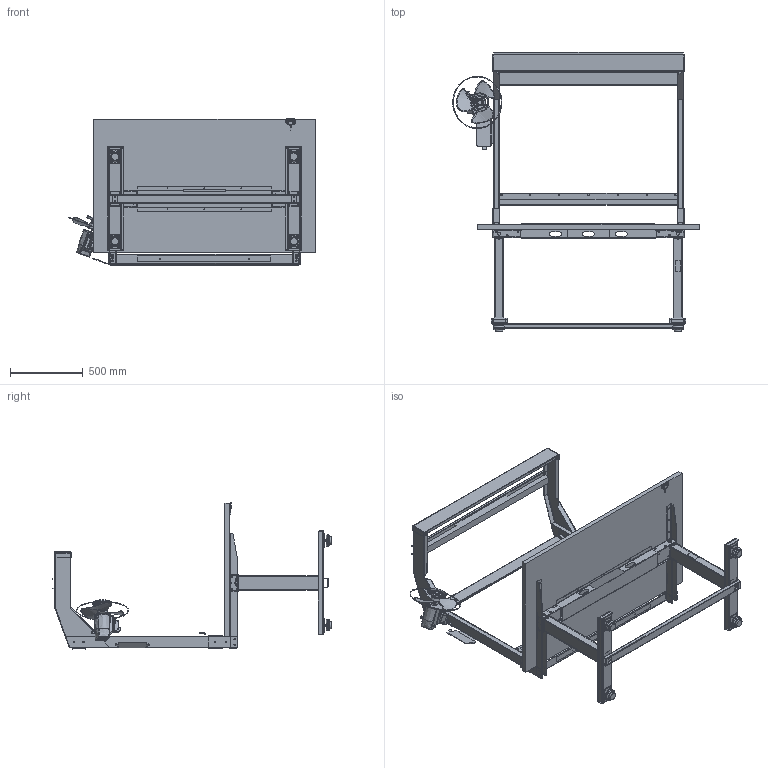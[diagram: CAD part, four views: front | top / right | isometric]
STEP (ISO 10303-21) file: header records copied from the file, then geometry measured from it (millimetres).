
FILE_DESCRIPTION (( 'STEP AP214' ), '1' );
FILE_NAME ('60INX36IN.STEP', '2018-10-08T12:30:38', ( '' ), ( '' ), 'SwSTEP 2.0', 'SolidWorks 2018', '' );
FILE_SCHEMA (( 'AUTOMOTIVE_DESIGN' ));
Length unit declared in the file: millimetre
Products named in the file (2): 60INX36IN
Bounding box: 1695.32 x 1924.07 x 1017.21 mm (x, y, z)
Surface area: 10889080.6 mm2 (no closed solid volume)
Topology: 0 solids, 104 shells, 5424 faces, 15494 edges, 10155 vertices
Faces by surface type: plane 3332, cylinder 1569, bspline 447, cone 76
Full cylindrical faces by diameter (mm): 3.6 x4, 4 x3, 4.2 x6, 4.6 x1, 5 x78, 5.8 x2, 6 x6, 6.35 x4, 6.4 x6, 6.647 x4, 6.8 x41, 7 x30, 7.937 x2, 7.938 x2, 8 x9, 8.5 x4, 9.347 x8, 9.525 x8, 10 x26, 11.35 x4, 12 x4, 14 x1, 17 x2, 20 x4, 30.636 x1, 49.7 x4, 63.994 x1, 66.587 x1, 76.2 x4, 89.915 x1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
Entity records: 297243 total; most frequent: CARTESIAN_POINT 101299, ORIENTED_EDGE 28466, DIRECTION 25946, EDGE_CURVE 14935, VECTOR 10250, LINE 10250, VERTEX_POINT 9978, AXIS2_PLACEMENT_3D 7848
